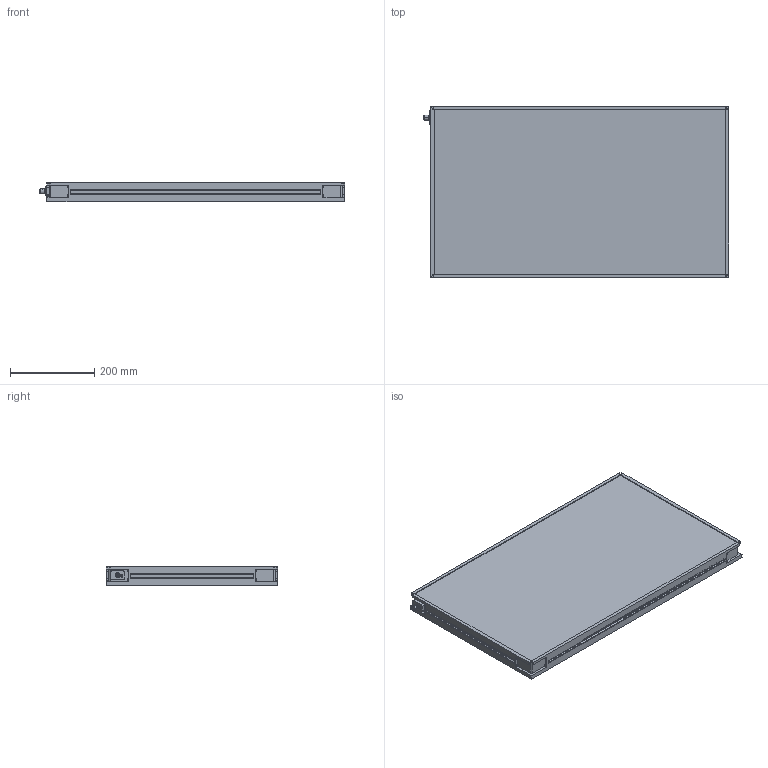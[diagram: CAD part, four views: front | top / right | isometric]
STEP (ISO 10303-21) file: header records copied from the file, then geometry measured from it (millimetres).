
FILE_DESCRIPTION (( 'STEP AP214' ), '1' );
FILE_NAME ('MBACK-xxxx-xxx-M1_CLIENT400x700.STEP', '2022-03-31T16:11:31', ( '' ), ( '' ), 'SwSTEP 2.0', 'SolidWorks 2020', '' );
FILE_SCHEMA (( 'AUTOMOTIVE_DESIGN' ));
Length unit declared in the file: millimetre
Products named in the file (1): MBACK-xxxx-xxx-M1_CLIENT400x700
Bounding box: 725.9 x 408 x 45.5 mm (x, y, z)
Volume: 11981383.6 mm3; surface area: 725797.3 mm2
Topology: 1 solids, 1 shells, 442 faces, 1144 edges, 760 vertices
Faces by surface type: plane 249, cylinder 105, bspline 80, cone 8
Entity records: 17236 total; most frequent: CARTESIAN_POINT 6699, ORIENTED_EDGE 2288, DIRECTION 1936, EDGE_CURVE 1144, VERTEX_POINT 760, VECTOR 758, LINE 758, AXIS2_PLACEMENT_3D 589
